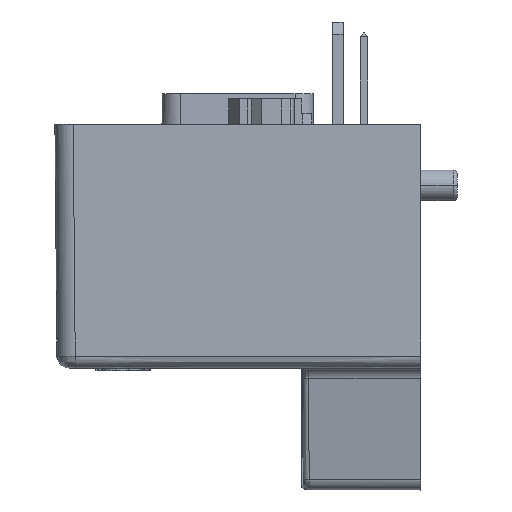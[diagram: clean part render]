
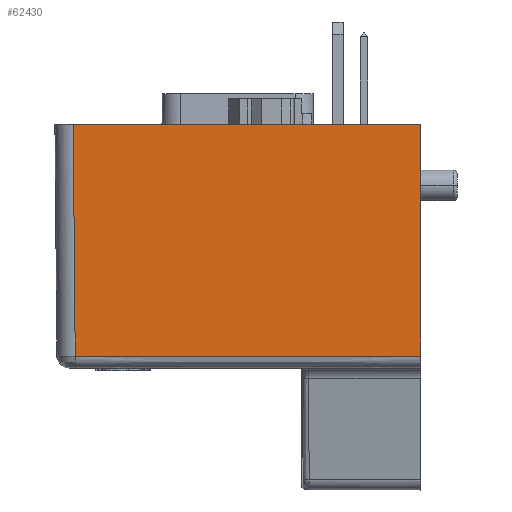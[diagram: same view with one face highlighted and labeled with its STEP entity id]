
A CAD part, left-side view. The second image highlights one B-rep face of the part: STEP entity #62430.
In plain terms, the highlighted planar face has unit normal (-1, 0, -0.009) as drawn and (1, 0, 0.009) by its records, which use the part's own axes.
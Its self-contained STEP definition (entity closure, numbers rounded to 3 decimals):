
#51100=CARTESIAN_POINT('',(19.834,-15.,19.009));
#51110=VERTEX_POINT('',#51100);
#51140=CARTESIAN_POINT('',(20.,-15.,0.));
#51150=DIRECTION('',(0.009,0.,-1.));
#51160=VECTOR('',#51150,1.);
#51170=LINE('',#51140,#51160);
#51180=CARTESIAN_POINT('',(20.,-15.,0.));
#51190=VERTEX_POINT('',#51180);
#51200=EDGE_CURVE('',#51110,#51190,#51170,.T.);
#62130=CARTESIAN_POINT('',(19.834,-15.15,19.009));
#62140=DIRECTION('',(1.,-0.,0.009));
#62150=DIRECTION('',(0.009,0.,-1.));
#62160=AXIS2_PLACEMENT_3D('',#62130,#62140,#62150);
#62170=PLANE('',#62160);
#62180=CARTESIAN_POINT('',(20.,0.,0.));
#62190=DIRECTION('',(0.,1.,0.));
#62200=VECTOR('',#62190,1.);
#62210=LINE('',#62180,#62200);
#62220=CARTESIAN_POINT('',(20.,13.5,0.));
#62230=VERTEX_POINT('',#62220);
#62240=EDGE_CURVE('',#51190,#62230,#62210,.T.);
#62250=ORIENTED_EDGE('',*,*,#62240,.T.);
#62260=ORIENTED_EDGE('',*,*,#51200,.T.);
#62270=CARTESIAN_POINT('',(19.834,0.,19.009));
#62280=DIRECTION('',(0.,-1.,0.));
#62290=VECTOR('',#62280,1.);
#62300=LINE('',#62270,#62290);
#62310=CARTESIAN_POINT('',(19.834,13.334,
19.009));
#62320=VERTEX_POINT('',#62310);
#62330=EDGE_CURVE('',#62320,#51110,#62300,.T.);
#62340=ORIENTED_EDGE('',*,*,#62330,.T.);
#62350=CARTESIAN_POINT('',(20.,13.5,
0.013));
#62360=DIRECTION('',(-0.009,-0.009,
1.));
#62370=VECTOR('',#62360,1.);
#62380=LINE('',#62350,#62370);
#62390=EDGE_CURVE('',#62230,#62320,#62380,.T.);
#62400=ORIENTED_EDGE('',*,*,#62390,.T.);
#62410=EDGE_LOOP('',(#62400,#62340,#62260,#62250));
#62420=FACE_OUTER_BOUND('',#62410,.T.);
#62430=ADVANCED_FACE('',(#62420),#62170,.T.);
